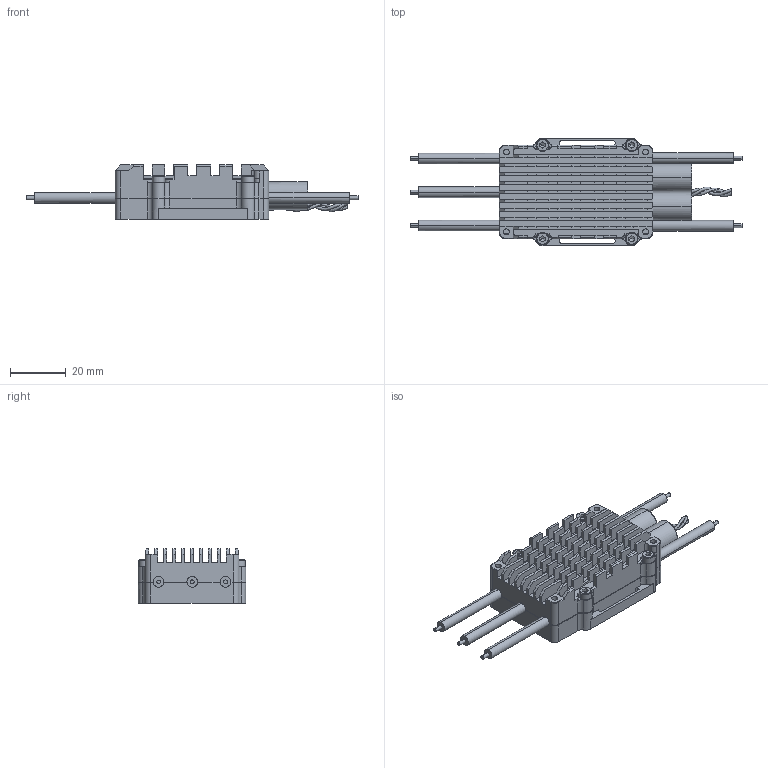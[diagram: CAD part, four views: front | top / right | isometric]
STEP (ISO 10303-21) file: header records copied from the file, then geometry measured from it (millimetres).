
FILE_DESCRIPTION (( 'STEP AP203' ), '1' );
FILE_NAME ('T series V2 (T mini) _Enclosure.STEP', '2025-12-12T08:56:01', ( '' ), ( '' ), 'STEP 2.0', 'RD_CAD', '' );
FILE_SCHEMA (( 'CONFIG_CONTROL_DESIGN' ));
Length unit declared in the file: millimetre
Products named in the file (1): T series V2 (T mini) _Enclosure
Bounding box: 119 x 38.52 x 19.51 mm (x, y, z)
Volume: 33524.2 mm3; surface area: 16909.2 mm2
Topology: 1 solids, 11 shells, 824 faces, 2227 edges, 1433 vertices
Faces by surface type: plane 522, cylinder 215, cone 46, torus 32, bspline 9
Entity records: 27774 total; most frequent: CARTESIAN_POINT 6702, ORIENTED_EDGE 4442, DIRECTION 4352, EDGE_CURVE 2221, VECTOR 1582, LINE 1582, VERTEX_POINT 1435, AXIS2_PLACEMENT_3D 1385
